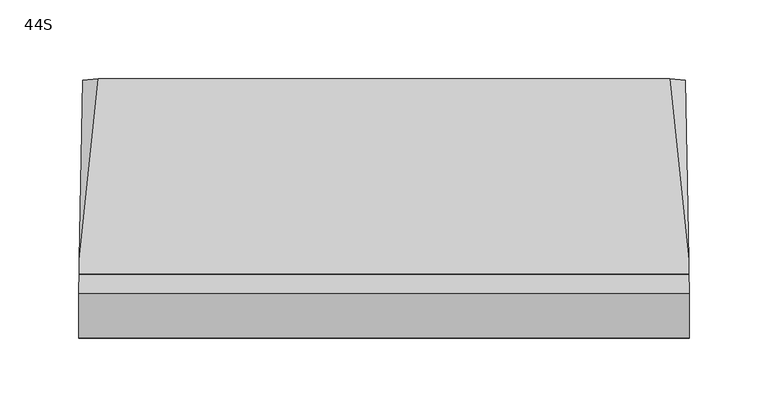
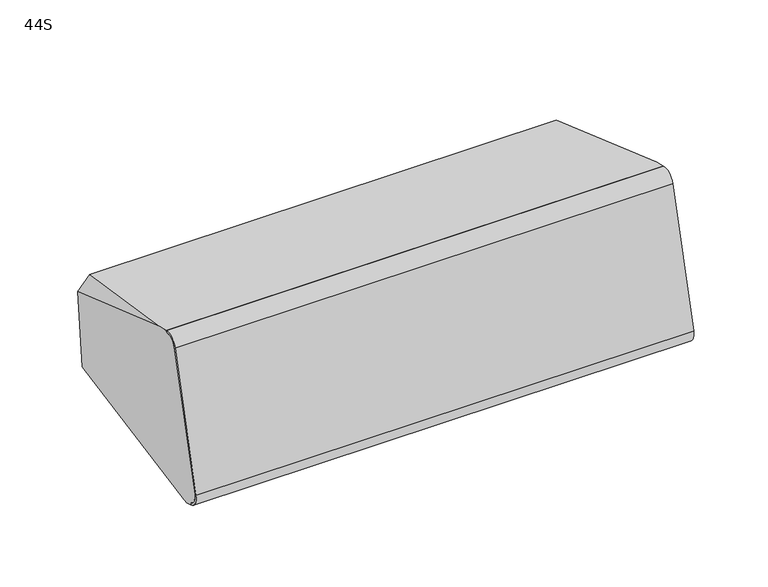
"""IFC4 building model written with IfcOpenShell, lengths in millimetres: proxy geometry, d&b xS-Series 44S Point Source : 44S."""

from ifc_helpers import new_model, si_unit, frame, origin, place, context, project, spatial, polyline, circle_curve, ellipse_curve, source, transform, mapped, element, save
from ifc_brep_helpers import plane_surface, cylinder_surface, revolved_surface, advanced_brep


def proxy_44s_0980b8fd(model_context):
    return source(origin(), model_context, "Body", "AdvancedBrep", [
        advanced_brep(
        [(193.2924342, -47.1866856, 78.9013099), (193.2924342, -47.6930588, 77.0114994), (193.4294708, -57.4482683, 71.3793266), (193.4294708, -85.4210241, -33.0164193), (193.2918337, -79.7641699, -42.8143783), (193.2918337, -80.281808, -44.7462299), (193.1898069, -74.5536839, -46.2810761), (193.132384, -71.0154389, -45.9718138), (190.8800877, 70.5534468, -23.4352051), (191.0574064, 75.7263535, 35.6913891), (193.132384, -38.2009341, 76.493585), (-193.2924342, -47.6930588, 77.0114994), (-193.2924342, -47.1866856, 78.9013099), (-193.132384, -38.2009341, 76.493585), (-191.0574064, 75.7263535, 35.6913891), (-190.8800877, 70.5534468, -23.4352051), (-193.132384, -71.0154389, -45.9718138), (-193.1898069, -74.5536839, -46.2810761), (-193.2918337, -80.281808, -44.7462299), (-193.2918337, -79.7641699, -42.8143783), (-193.4294708, -85.4210241, -33.0164193), (-193.4294708, -57.4482683, 71.3793266), (181.3061997, 76.6047489, 45.7314949), (-181.3061997, 76.6047489, 45.7314949), (-179.9289467, 69.6574742, -33.6762184), (179.9289467, 69.6574742, -33.6762184), (138.5, 71.9980869, -6.9228928), (138.5, 74.2641362, 18.9781693), (128.5, 75.1356936, 28.9401163), (51.5, 75.1356936, 28.9401163), (41.5, 74.2641362, 18.9781693), (41.5, 71.9980869, -6.9228928), (51.5, 71.1265295, -16.8848398), (128.5, 71.1265295, -16.8848398), (138.5, 67.0171134, -6.4871141), (128.5, 66.145556, -16.4490611), (51.5, 66.145556, -16.4490611), (41.5, 67.0171134, -6.4871141), (41.5, 69.2831627, 19.4139481), (51.5, 70.1547201, 29.375895), (128.5, 70.1547201, 29.375895), (138.5, 69.2831627, 19.4139481)],
        [
            (0, 1),
            (1, 2, ellipse_curve(frame((193.2924342, -49.7545772, 69.3178082), z_axis=(0.9998520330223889, 0.016615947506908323, -0.0044522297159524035), x_axis=(0.01720209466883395, -0.9657829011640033, 0.2587807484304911)), 7.9662739, 7.9650952)),
            (2, 3),
            (3, 4, ellipse_curve(frame((193.2918337, -77.6936175, -35.0869717), z_axis=(0.9998520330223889, 0.016615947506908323, -0.0044522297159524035), x_axis=(0.01720209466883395, -0.9657829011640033, 0.2587807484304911)), 8.0011839, 8.0)),
            (4, 5),
            (5, 6),
            (6, 7),
            (7, 8),
            (8, 9),
            (9, 10),
            (10, 0),
            (11, 12),
            (12, 13),
            (13, 14),
            (14, 15),
            (15, 16),
            (16, 17),
            (17, 18),
            (18, 19),
            (19, 20, ellipse_curve(frame((-193.2918337, -77.6936175, -35.0869717), z_axis=(-0.999852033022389, 0.016615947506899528, -0.004452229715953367), x_axis=(0.017202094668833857, 0.9657829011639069, -0.2587807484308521)), 8.0011839, 8.0)),
            (20, 21),
            (21, 11, ellipse_curve(frame((-193.2924342, -49.7545772, 69.3178082), z_axis=(-0.999852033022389, 0.016615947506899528, -0.004452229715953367), x_axis=(0.017202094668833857, 0.9657829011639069, -0.2587807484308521)), 7.9662739, 7.9650952)),
            (0, 12),
            (11, 1),
            (21, 2),
            (20, 3),
            (19, 4),
            (18, 5),
            (17, 6),
            (10, 22),
            (22, 23),
            (23, 13),
            (16, 24),
            (24, 25),
            (25, 7),
            (9, 22),
            (23, 14),
            (15, 24),
            (25, 8),
            (26, 27),
            (27, 28, circle_curve(frame((128.5, 74.2641362, 18.9781693), z_axis=(0.0, -0.9961946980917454, 0.08715574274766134), x_axis=(0.0, -0.08715574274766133, -0.9961946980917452)), 10.0)),
            (28, 29),
            (29, 30, circle_curve(frame((51.5, 74.2641362, 18.9781693), z_axis=(0.0, -0.9961946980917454, 0.08715574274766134), x_axis=(0.0, -0.08715574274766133, -0.9961946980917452)), 10.0)),
            (30, 31),
            (31, 32, circle_curve(frame((51.5, 71.9980869, -6.9228928), z_axis=(0.0, -0.9961946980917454, 0.08715574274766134), x_axis=(0.0, -0.08715574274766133, -0.9961946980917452)), 10.0)),
            (32, 33),
            (33, 26, circle_curve(frame((128.5, 71.9980869, -6.9228928), z_axis=(0.0, -0.9961946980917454, 0.08715574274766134), x_axis=(0.0, -0.08715574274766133, -0.9961946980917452)), 10.0)),
            (34, 35, circle_curve(frame((128.5, 67.0171134, -6.4871141), z_axis=(0.0, 0.9961946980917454, -0.08715574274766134), x_axis=(0.0, -0.08715574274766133, -0.9961946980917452)), 10.0)),
            (35, 36),
            (36, 37, circle_curve(frame((51.5, 67.0171134, -6.4871141), z_axis=(0.0, 0.9961946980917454, -0.08715574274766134), x_axis=(0.0, -0.08715574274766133, -0.9961946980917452)), 10.0)),
            (37, 38),
            (38, 39, circle_curve(frame((51.5, 69.2831627, 19.4139481), z_axis=(0.0, 0.9961946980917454, -0.08715574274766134), x_axis=(0.0, -0.08715574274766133, -0.9961946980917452)), 10.0)),
            (39, 40),
            (40, 41, circle_curve(frame((128.5, 69.2831627, 19.4139481), z_axis=(0.0, 0.9961946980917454, -0.08715574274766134), x_axis=(0.0, -0.08715574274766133, -0.9961946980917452)), 10.0)),
            (41, 34),
            (41, 27),
            (26, 34),
            (40, 28),
            (39, 29),
            (38, 30),
            (37, 31),
            (36, 32),
            (35, 33),
        ],
        [
            plane_surface(frame((193.8309972, -119.8697317, -71.4086202), z_axis=(0.9998520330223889, 0.016615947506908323, -0.0044522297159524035), x_axis=(0.0, 0.25881904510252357, 0.9659258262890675))),
            plane_surface(frame((-190.7119283, 55.2451907, -118.3305223), z_axis=(-0.999852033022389, 0.016615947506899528, -0.004452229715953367), x_axis=(0.0, 0.25881904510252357, 0.9659258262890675))),
            plane_surface(frame((207.1452552, -47.1866856, 78.9013099), z_axis=(0.0, -0.9659258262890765, 0.2588190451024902), x_axis=(-1.0, 0.0, 0.0))),
            cylinder_surface(frame((-207.1452552, -49.7545772, 69.3178082), z_axis=(1.0, 0.0, 0.0), x_axis=(0.0, 0.25881904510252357, 0.9659258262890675)), 7.9650952),
            plane_surface(frame((207.1452552, -57.4482683, 71.3793266), z_axis=(0.0, -0.9659258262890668, 0.2588190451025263), x_axis=(-1.0, 0.0, 0.0))),
            cylinder_surface(frame((-207.1452552, -77.6936175, -35.0869717), z_axis=(1.0, 0.0, 0.0), x_axis=(0.0, 0.25881904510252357, 0.9659258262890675)), 8.0),
            plane_surface(frame((207.1452552, -79.7641699, -42.8143783), z_axis=(0.0, -0.965925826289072, 0.25881904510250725), x_axis=(-1.0, 0.0, 0.0))),
            plane_surface(frame((207.1452552, -80.281808, -44.7462299), z_axis=(0.0, -0.25881904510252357, -0.9659258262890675), x_axis=(-1.0, 0.0, 0.0))),
            plane_surface(frame((207.1452552, -41.4248462, 77.3574296), z_axis=(0.0, 0.25881904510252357, 0.9659258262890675), x_axis=(-1.0, 0.0, 0.0))),
            plane_surface(frame((0.0, 69.6574742, -33.6762184), z_axis=(0.0, 0.08707358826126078, -0.9962018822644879), x_axis=(1.0, 0.0, 0.0))),
            plane_surface(frame((186.6967137, 88.2231547, 35.6118446), z_axis=(0.7053631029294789, 0.25035388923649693, 0.6631634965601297), x_axis=(-0.7071067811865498, 0.18301270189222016, 0.6830127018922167))),
            plane_surface(frame((-186.6967137, 88.2231547, 35.6118446), z_axis=(-0.7053631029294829, 0.2503538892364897, 0.6631634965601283), x_axis=(-0.7071067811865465, -0.18301270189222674, -0.6830127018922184))),
            plane_surface(frame((-186.6967137, 71.4091012, -27.1390575), z_axis=(-0.6719558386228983, 0.1268444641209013, -0.7296477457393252), x_axis=(0.7071067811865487, -0.1830127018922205, -0.6830127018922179))),
            plane_surface(frame((186.6967137, 71.4091012, -27.1390575), z_axis=(0.671955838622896, 0.12684446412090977, -0.7296477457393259), x_axis=(0.7071067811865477, 0.18301270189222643, 0.6830127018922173))),
            plane_surface(frame((250.0, 78.1321342, 63.1895889), z_axis=(0.0, 0.9961946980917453, -0.08715574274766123), x_axis=(-1.0, 0.0, 0.0))),
            plane_surface(frame((138.5, 71.6237754, 46.1672737), z_axis=(0.0, 0.9961946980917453, -0.08715574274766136), x_axis=(0.0, 0.08715574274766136, 0.9961946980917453))),
            plane_surface(frame((138.5, 67.0171134, -6.4871141), z_axis=(-1.0, 0.0, 0.0), x_axis=(0.0, 0.9961946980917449, -0.08715574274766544))),
            revolved_surface(polyline([(128.5, 68.41160524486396, 9.452001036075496), (128.5, 73.39257877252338, 9.01622231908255)]), (128.5, 74.2641362, 18.9781693), (0.0, -0.9961946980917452, 0.08715574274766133)),
            plane_surface(frame((128.5, 70.1547201, 29.375895), z_axis=(0.0, -0.08715574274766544, -0.9961946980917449), x_axis=(0.0, 0.9961946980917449, -0.08715574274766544))),
            revolved_surface(polyline([(51.5, 68.41160524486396, 9.452001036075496), (51.5, 73.39257877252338, 9.01622231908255)]), (51.5, 74.2641362, 18.9781693), (0.0, -0.9961946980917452, 0.08715574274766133)),
            plane_surface(frame((41.5, 69.2831627, 19.4139481), z_axis=(1.0, 0.0, 0.0), x_axis=(0.0, 0.9961946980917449, -0.08715574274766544))),
            revolved_surface(polyline([(51.5, 66.14555597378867, -16.44906106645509), (51.5, 71.1265295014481, -16.884839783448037)]), (51.5, 71.9980869, -6.9228928), (0.0, -0.9961946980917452, 0.08715574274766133)),
            plane_surface(frame((51.5, 66.145556, -16.4490611), z_axis=(0.0, 0.08715574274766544, 0.9961946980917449), x_axis=(0.0, 0.9961946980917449, -0.08715574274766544))),
            revolved_surface(polyline([(128.5, 66.14555597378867, -16.44906106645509), (128.5, 71.1265295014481, -16.884839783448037)]), (128.5, 71.9980869, -6.9228928), (0.0, -0.9961946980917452, 0.08715574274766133)),
        ],
        [
            (0, [[1, 2, 3, 4, 5, 6, 7, 8, 9, 10, 11]]),
            (1, [[12, 13, 14, 15, 16, 17, 18, 19, 20, 21, 22]]),
            (2, [[23, -12, 24, -1]]),
            (3, [[-24, -22, 25, -2]]),
            (4, [[-25, -21, 26, -3]]),
            (5, [[-26, -20, 27, -4]]),
            (6, [[-27, -19, 28, -5]]),
            (7, [[-28, -18, 29, -6]]),
            (8, [[-23, -11, 30, 31, 32, -13]]),
            (9, [[-29, -17, 33, 34, 35, -7]]),
            (10, [[-30, -10, 36]]),
            (11, [[-32, 37, -14]]),
            (12, [[-33, -16, 38]]),
            (13, [[-35, 39, -8]]),
            (14, [[-31, -36, -9, -39, -34, -38, -15, -37], [40, 41, 42, 43, 44, 45, 46, 47]]),
            (15, [[48, 49, 50, 51, 52, 53, 54, 55]]),
            (16, [[-55, 56, -40, 57]]),
            (17, [[-54, 58, -41, -56]]),
            (18, [[-53, 59, -42, -58]]),
            (19, [[-52, 60, -43, -59]]),
            (20, [[-51, 61, -44, -60]]),
            (21, [[-50, 62, -45, -61]]),
            (22, [[-49, 63, -46, -62]]),
            (23, [[-48, -57, -47, -63]]),
        ],
    ),
        advanced_brep(
        [(193.4294708, -85.4210241, -33.0164193), (193.4294708, -57.4482683, 71.3793266), (193.2924342, -47.6930588, 77.0114994), (193.2924342, -47.1866856, 78.9013099), (193.4644806, -59.4341344, 71.830242), (193.4644806, -87.3865912, -32.4897472), (193.2918337, -80.290842, -44.7799454), (193.2918337, -79.7641699, -42.8143783), (-193.4294708, -57.4482683, 71.3793266), (-193.4294708, -85.4210241, -33.0164193), (-193.2918337, -79.7641699, -42.8143783), (-193.2918337, -80.290842, -44.7799454), (-193.4644806, -87.3865912, -32.4897472), (-193.4644806, -59.4341344, 71.830242), (-193.2924342, -47.1866856, 78.9013099), (-193.2924342, -47.6930588, 77.0114994)],
        [
            (0, 1),
            (1, 2, ellipse_curve(frame((193.2924342, -49.7545772, 69.3178082), z_axis=(-0.9998520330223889, -0.016615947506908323, 0.0044522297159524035), x_axis=(-0.01720209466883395, 0.9657829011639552, -0.25878074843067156)), 7.9662739, 7.9650952)),
            (2, 3),
            (3, 4, ellipse_curve(frame((193.2924342, -49.7748761, 69.2420516), z_axis=(0.9998520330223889, 0.016615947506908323, -0.0044522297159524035), x_axis=(0.01720209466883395, -0.9657829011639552, 0.25878074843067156)), 10.0014799, 10.0)),
            (4, 5),
            (5, 6, ellipse_curve(frame((193.2918337, -77.6936175, -35.0869717), z_axis=(0.9998520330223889, 0.016615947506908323, -0.0044522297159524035), x_axis=(0.01720209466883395, -0.9657829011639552, 0.25878074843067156)), 10.0363899, 10.0349048)),
            (6, 7),
            (7, 0, ellipse_curve(frame((193.2918337, -77.6936175, -35.0869717), z_axis=(-0.9998520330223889, -0.016615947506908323, 0.0044522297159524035), x_axis=(-0.01720209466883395, 0.9657829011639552, -0.25878074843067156)), 8.0011839, 8.0)),
            (8, 9),
            (9, 10, ellipse_curve(frame((-193.2918337, -77.6936175, -35.0869717), z_axis=(0.999852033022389, -0.016615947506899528, 0.004452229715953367), x_axis=(-0.017202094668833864, -0.9657829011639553, 0.25878074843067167)), 8.0011839, 8.0)),
            (10, 11),
            (11, 12, ellipse_curve(frame((-193.2918337, -77.6936175, -35.0869717), z_axis=(-0.999852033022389, 0.016615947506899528, -0.004452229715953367), x_axis=(0.017202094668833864, 0.9657829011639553, -0.25878074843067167)), 10.0363899, 10.0349048)),
            (12, 13),
            (13, 14, ellipse_curve(frame((-193.2924342, -49.7748761, 69.2420516), z_axis=(-0.999852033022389, 0.016615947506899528, -0.004452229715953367), x_axis=(0.017202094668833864, 0.9657829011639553, -0.25878074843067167)), 10.0014799, 10.0)),
            (14, 15),
            (15, 8, ellipse_curve(frame((-193.2924342, -49.7545772, 69.3178082), z_axis=(0.999852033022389, -0.016615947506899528, 0.004452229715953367), x_axis=(-0.017202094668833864, -0.9657829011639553, 0.25878074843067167)), 7.9662739, 7.9650952)),
            (0, 9),
            (8, 1),
            (15, 2),
            (14, 3),
            (13, 4),
            (12, 5),
            (11, 6),
            (10, 7),
        ],
        [
            plane_surface(frame((193.8309972, -119.8697317, -71.4086202), z_axis=(0.9998520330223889, 0.016615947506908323, -0.0044522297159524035), x_axis=(0.0, 0.25881904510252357, 0.9659258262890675))),
            plane_surface(frame((-190.7119283, 55.2451907, -118.3305223), z_axis=(-0.999852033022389, 0.016615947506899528, -0.004452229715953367), x_axis=(0.0, 0.25881904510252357, 0.9659258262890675))),
            plane_surface(frame((202.5, -85.4210241, -33.0164193), z_axis=(0.0, 0.9659258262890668, -0.2588190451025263), x_axis=(-1.0, 0.0, 0.0))),
            revolved_surface(polyline([(-193.4294708, -51.816095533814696, 61.62411703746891), (193.4294708, -51.816095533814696, 61.62411703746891)]), (-202.5, -49.7545772, 69.3178082), (-1.0, 0.0, 0.0)),
            plane_surface(frame((202.5, -47.6930588, 77.0114994), z_axis=(0.0, 0.9659258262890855, -0.2588190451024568), x_axis=(-1.0, 0.0, 0.0))),
            cylinder_surface(frame((-202.5, -49.7748761, 69.2420516), z_axis=(1.0, 0.0, 0.0), x_axis=(0.0, -0.25881904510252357, -0.9659258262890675)), 10.0),
            plane_surface(frame((202.5, -59.4341344, 71.830242), z_axis=(0.0, -0.9659258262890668, 0.2588190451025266), x_axis=(-1.0, 0.0, 0.0))),
            cylinder_surface(frame((-202.5, -77.6936175, -35.0869717), z_axis=(1.0, 0.0, 0.0), x_axis=(0.0, -0.25881904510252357, -0.9659258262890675)), 10.0349048),
            plane_surface(frame((202.5, -80.290842, -44.7799454), z_axis=(0.0, 0.965925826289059, -0.25881904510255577), x_axis=(-1.0, 0.0, 0.0))),
            revolved_surface(polyline([(-193.42947082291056, -79.76416986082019, -42.81437831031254), (193.42947082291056, -79.76416986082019, -42.81437831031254)]), (-202.5, -77.6936175, -35.0869717), (-1.0, 0.0, 0.0)),
        ],
        [
            (0, [[1, 2, 3, 4, 5, 6, 7, 8]]),
            (1, [[9, 10, 11, 12, 13, 14, 15, 16]]),
            (2, [[17, -9, 18, -1]]),
            (3, [[-18, -16, 19, -2]]),
            (4, [[-19, -15, 20, -3]]),
            (5, [[-20, -14, 21, -4]]),
            (6, [[-21, -13, 22, -5]]),
            (7, [[-22, -12, 23, -6]]),
            (8, [[-23, -11, 24, -7]]),
            (9, [[-17, -8, -24, -10]]),
        ],
    ),
        advanced_brep(
        [(193.4294708, -85.4210241, -33.0164193), (193.4294708, -57.4482683, 71.3793266), (193.2924342, -47.6930588, 77.0114994), (193.2924342, -47.1866856, 78.9013099), (193.4644806, -59.4341344, 71.830242), (193.4644806, -87.3865912, -32.4897472), (193.2918337, -80.290842, -44.7799454), (193.2918337, -79.7641699, -42.8143783), (-193.4294708, -57.4482683, 71.3793266), (-193.4294708, -85.4210241, -33.0164193), (-193.2918337, -79.7641699, -42.8143783), (-193.2918337, -80.290842, -44.7799454), (-193.4644806, -87.3865912, -32.4897472), (-193.4644806, -59.4341344, 71.830242), (-193.2924342, -47.1866856, 78.9013099), (-193.2924342, -47.6930588, 77.0114994)],
        [
            (0, 1),
            (1, 2, ellipse_curve(frame((193.2924342, -49.7545772, 69.3178082), z_axis=(-0.9998520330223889, -0.016615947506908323, 0.0044522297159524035), x_axis=(-0.01720209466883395, 0.9657829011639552, -0.25878074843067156)), 7.9662739, 7.9650952)),
            (2, 3),
            (3, 4, ellipse_curve(frame((193.2924342, -49.7748761, 69.2420516), z_axis=(0.9998520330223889, 0.016615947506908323, -0.0044522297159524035), x_axis=(0.01720209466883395, -0.9657829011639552, 0.25878074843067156)), 10.0014799, 10.0)),
            (4, 5),
            (5, 6, ellipse_curve(frame((193.2918337, -77.6936175, -35.0869717), z_axis=(0.9998520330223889, 0.016615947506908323, -0.0044522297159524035), x_axis=(0.01720209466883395, -0.9657829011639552, 0.25878074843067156)), 10.0363899, 10.0349048)),
            (6, 7),
            (7, 0, ellipse_curve(frame((193.2918337, -77.6936175, -35.0869717), z_axis=(-0.9998520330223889, -0.016615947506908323, 0.0044522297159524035), x_axis=(-0.01720209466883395, 0.9657829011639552, -0.25878074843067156)), 8.0011839, 8.0)),
            (8, 9),
            (9, 10, ellipse_curve(frame((-193.2918337, -77.6936175, -35.0869717), z_axis=(0.999852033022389, -0.016615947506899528, 0.004452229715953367), x_axis=(-0.017202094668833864, -0.9657829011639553, 0.25878074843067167)), 8.0011839, 8.0)),
            (10, 11),
            (11, 12, ellipse_curve(frame((-193.2918337, -77.6936175, -35.0869717), z_axis=(-0.999852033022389, 0.016615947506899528, -0.004452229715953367), x_axis=(0.017202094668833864, 0.9657829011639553, -0.25878074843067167)), 10.0363899, 10.0349048)),
            (12, 13),
            (13, 14, ellipse_curve(frame((-193.2924342, -49.7748761, 69.2420516), z_axis=(-0.999852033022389, 0.016615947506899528, -0.004452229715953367), x_axis=(0.017202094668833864, 0.9657829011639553, -0.25878074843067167)), 10.0014799, 10.0)),
            (14, 15),
            (15, 8, ellipse_curve(frame((-193.2924342, -49.7545772, 69.3178082), z_axis=(0.999852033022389, -0.016615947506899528, 0.004452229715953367), x_axis=(-0.017202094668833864, -0.9657829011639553, 0.25878074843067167)), 7.9662739, 7.9650952)),
            (0, 9),
            (8, 1),
            (15, 2),
            (14, 3),
            (13, 4),
            (12, 5),
            (11, 6),
            (10, 7),
        ],
        [
            plane_surface(frame((193.8309972, -119.8697317, -71.4086202), z_axis=(0.9998520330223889, 0.016615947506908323, -0.0044522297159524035), x_axis=(0.0, 0.25881904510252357, 0.9659258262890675))),
            plane_surface(frame((-190.7119283, 55.2451907, -118.3305223), z_axis=(-0.999852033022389, 0.016615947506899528, -0.004452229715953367), x_axis=(0.0, 0.25881904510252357, 0.9659258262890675))),
            plane_surface(frame((202.5, -85.4210241, -33.0164193), z_axis=(0.0, 0.9659258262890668, -0.2588190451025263), x_axis=(-1.0, 0.0, 0.0))),
            revolved_surface(polyline([(-193.4294708, -51.816095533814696, 61.62411703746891), (193.4294708, -51.816095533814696, 61.62411703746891)]), (-202.5, -49.7545772, 69.3178082), (-1.0, 0.0, 0.0)),
            plane_surface(frame((202.5, -47.6930588, 77.0114994), z_axis=(0.0, 0.9659258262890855, -0.2588190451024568), x_axis=(-1.0, 0.0, 0.0))),
            cylinder_surface(frame((-202.5, -49.7748761, 69.2420516), z_axis=(1.0, 0.0, 0.0), x_axis=(0.0, -0.25881904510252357, -0.9659258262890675)), 10.0),
            plane_surface(frame((202.5, -59.4341344, 71.830242), z_axis=(0.0, -0.9659258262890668, 0.2588190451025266), x_axis=(-1.0, 0.0, 0.0))),
            cylinder_surface(frame((-202.5, -77.6936175, -35.0869717), z_axis=(1.0, 0.0, 0.0), x_axis=(0.0, -0.25881904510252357, -0.9659258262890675)), 10.0349048),
            plane_surface(frame((202.5, -80.290842, -44.7799454), z_axis=(0.0, 0.965925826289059, -0.25881904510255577), x_axis=(-1.0, 0.0, 0.0))),
            revolved_surface(polyline([(-193.42947082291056, -79.76416986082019, -42.81437831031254), (193.42947082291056, -79.76416986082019, -42.81437831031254)]), (-202.5, -77.6936175, -35.0869717), (-1.0, 0.0, 0.0)),
        ],
        [
            (0, [[1, 2, 3, 4, 5, 6, 7, 8]]),
            (1, [[9, 10, 11, 12, 13, 14, 15, 16]]),
            (2, [[17, -9, 18, -1]]),
            (3, [[-18, -16, 19, -2]]),
            (4, [[-19, -15, 20, -3]]),
            (5, [[-20, -14, 21, -4]]),
            (6, [[-21, -13, 22, -5]]),
            (7, [[-22, -12, 23, -6]]),
            (8, [[-23, -11, 24, -7]]),
            (9, [[-17, -8, -24, -10]]),
        ],
    ),
    ])


if __name__ == "__main__":
    model = new_model("IFC4")
    model_context = context("Model", 3, world=origin())
    ifc_project = project(units=[si_unit("LENGTHUNIT", "METRE", prefix="MILLI")], contexts=[model_context])
    site = spatial("IfcSite", under=ifc_project)
    building = spatial("IfcBuilding", under=site)
    placement = place(None, origin())
    proxy_44s_shape = proxy_44s_0980b8fd(model_context)
    element("IfcBuildingElementProxy", 1, Name="d&b xS-Series 44S Point Source : 44S", ObjectType="d&b xS-Series 44S Point Source : 44S", at=placement, inside=building, context=model_context, shape_type="MappedRepresentation", body=[
        mapped(proxy_44s_shape, transform((0.0, 0.0, 0.0), x_axis=(1.0, 0.0, 0.0), y_axis=(0.0, 1.0, 0.0), z_axis=(0.0, 0.0, 1.0))),
    ])
    save(model, "model.ifc")
